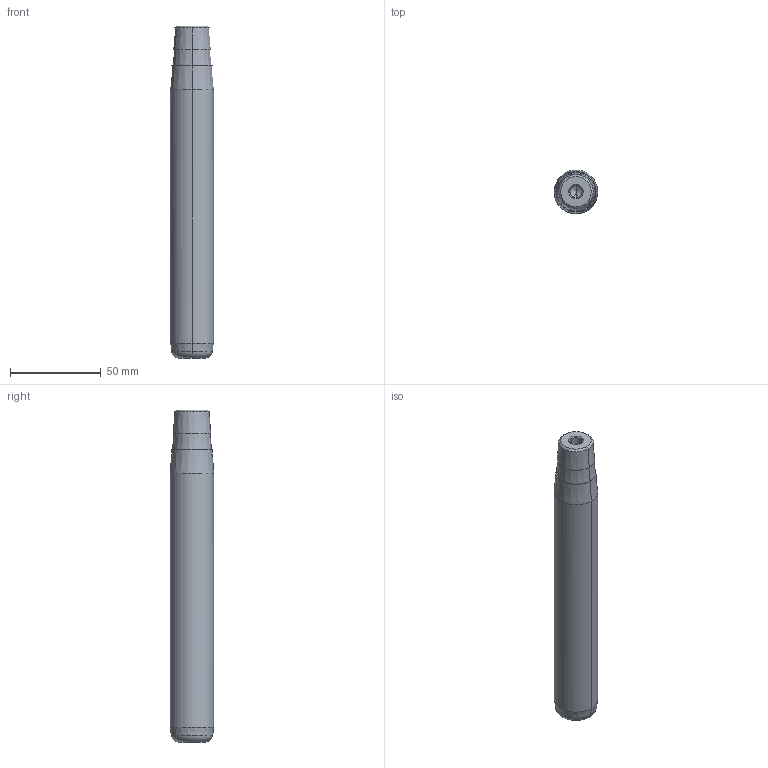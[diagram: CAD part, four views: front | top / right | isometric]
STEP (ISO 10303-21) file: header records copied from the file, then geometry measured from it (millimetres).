
FILE_DESCRIPTION(('CATIA V5 STEP Exchange'),'2;1');
FILE_NAME('C:\Users\Utente\Desktop\IO LAVORO\3D X SITO CF\X SITO\722\722-24x160x183.stp','2021-01-09T08:34:03+00:00',('none'),('none'),'CATIA Version 5 Release 20 GA (IN-10)','CATIA V5 STEP AP203','none');
FILE_SCHEMA(('CONFIG_CONTROL_DESIGN'));
Length unit declared in the file: millimetre
Products named in the file (1): 722-24x160x183
Bounding box: 24 x 24 x 183 mm (x, y, z)
Volume: 77023.2 mm3; surface area: 15122.3 mm2
Topology: 1 solids, 1 shells, 32 faces, 98 edges, 66 vertices
Faces by surface type: cone 22, cylinder 6, plane 2, torus 2
Entity records: 1166 total; most frequent: CARTESIAN_POINT 279, ORIENTED_EDGE 188, DIRECTION 148, EDGE_CURVE 94, AXIS2_PLACEMENT_3D 89, VERTEX_POINT 66, CIRCLE 56, EDGE_LOOP 34
